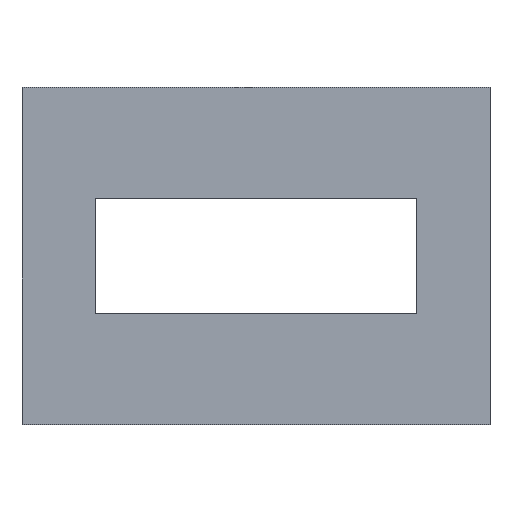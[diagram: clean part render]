
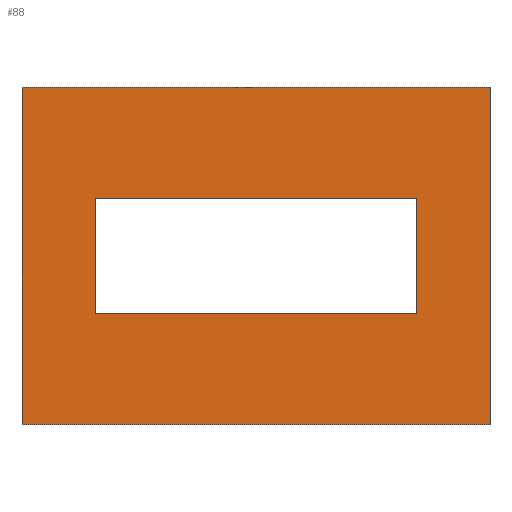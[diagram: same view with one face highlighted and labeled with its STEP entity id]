
A CAD part, top view. The second image highlights one B-rep face of the part: STEP entity #88.
In plain terms, the highlighted planar face has unit normal (0, 0, 1).
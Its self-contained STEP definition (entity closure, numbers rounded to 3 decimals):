
#24 = VERTEX_POINT('',#25);
#25 = CARTESIAN_POINT('',(-12.5,-9.,4.));
#40 = VERTEX_POINT('',#41);
#41 = CARTESIAN_POINT('',(-12.5,9.,4.));
#47 = EDGE_CURVE('',#24,#40,#48,.T.);
#48 = LINE('',#49,#50);
#49 = CARTESIAN_POINT('',(-12.5,-9.,4.));
#50 = VECTOR('',#51,1.);
#51 = DIRECTION('',(0.,1.,0.));
#70 = EDGE_CURVE('',#24,#71,#73,.T.);
#71 = VERTEX_POINT('',#72);
#72 = CARTESIAN_POINT('',(12.5,-9.,4.));
#73 = LINE('',#74,#75);
#74 = CARTESIAN_POINT('',(-12.5,-9.,4.));
#75 = VECTOR('',#76,1.);
#76 = DIRECTION('',(1.,0.,0.));
#88 = ADVANCED_FACE('',(#89,#107),#141,.T.);
#89 = FACE_BOUND('',#90,.T.);
#90 = EDGE_LOOP('',(#91,#92,#93,#101));
#91 = ORIENTED_EDGE('',*,*,#47,.F.);
#92 = ORIENTED_EDGE('',*,*,#70,.T.);
#93 = ORIENTED_EDGE('',*,*,#94,.T.);
#94 = EDGE_CURVE('',#71,#95,#97,.T.);
#95 = VERTEX_POINT('',#96);
#96 = CARTESIAN_POINT('',(12.5,9.,4.));
#97 = LINE('',#98,#99);
#98 = CARTESIAN_POINT('',(12.5,-9.,4.));
#99 = VECTOR('',#100,1.);
#100 = DIRECTION('',(0.,1.,0.));
#101 = ORIENTED_EDGE('',*,*,#102,.F.);
#102 = EDGE_CURVE('',#40,#95,#103,.T.);
#103 = LINE('',#104,#105);
#104 = CARTESIAN_POINT('',(-12.5,9.,4.));
#105 = VECTOR('',#106,1.);
#106 = DIRECTION('',(1.,0.,0.));
#107 = FACE_BOUND('',#108,.T.);
#108 = EDGE_LOOP('',(#109,#119,#127,#135));
#109 = ORIENTED_EDGE('',*,*,#110,.T.);
#110 = EDGE_CURVE('',#111,#113,#115,.T.);
#111 = VERTEX_POINT('',#112);
#112 = CARTESIAN_POINT('',(8.6,-3.05,4.));
#113 = VERTEX_POINT('',#114);
#114 = CARTESIAN_POINT('',(-8.6,-3.05,4.));
#115 = LINE('',#116,#117);
#116 = CARTESIAN_POINT('',(-10.55,-3.05,4.));
#117 = VECTOR('',#118,1.);
#118 = DIRECTION('',(-1.,0.,0.));
#119 = ORIENTED_EDGE('',*,*,#120,.T.);
#120 = EDGE_CURVE('',#113,#121,#123,.T.);
#121 = VERTEX_POINT('',#122);
#122 = CARTESIAN_POINT('',(-8.6,3.05,4.));
#123 = LINE('',#124,#125);
#124 = CARTESIAN_POINT('',(-8.6,-6.025,4.));
#125 = VECTOR('',#126,1.);
#126 = DIRECTION('',(0.,1.,0.));
#127 = ORIENTED_EDGE('',*,*,#128,.F.);
#128 = EDGE_CURVE('',#129,#121,#131,.T.);
#129 = VERTEX_POINT('',#130);
#130 = CARTESIAN_POINT('',(8.6,3.05,4.));
#131 = LINE('',#132,#133);
#132 = CARTESIAN_POINT('',(-10.55,3.05,4.));
#133 = VECTOR('',#134,1.);
#134 = DIRECTION('',(-1.,0.,0.));
#135 = ORIENTED_EDGE('',*,*,#136,.F.);
#136 = EDGE_CURVE('',#111,#129,#137,.T.);
#137 = LINE('',#138,#139);
#138 = CARTESIAN_POINT('',(8.6,-6.025,4.));
#139 = VECTOR('',#140,1.);
#140 = DIRECTION('',(0.,1.,0.));
#141 = PLANE('',#142);
#142 = AXIS2_PLACEMENT_3D('',#143,#144,#145);
#143 = CARTESIAN_POINT('',(-12.5,-9.,4.));
#144 = DIRECTION('',(0.,0.,1.));
#145 = DIRECTION('',(1.,0.,0.));
